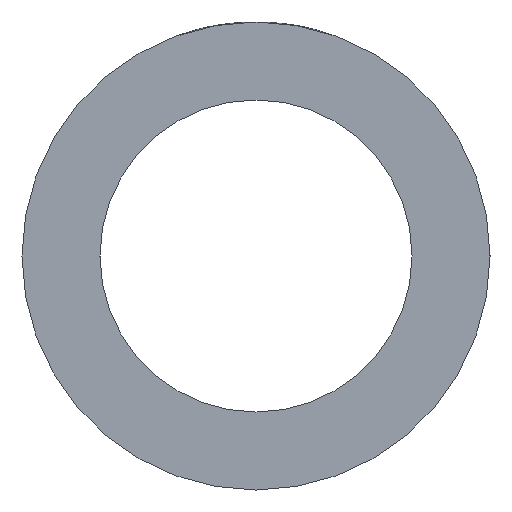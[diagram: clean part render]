
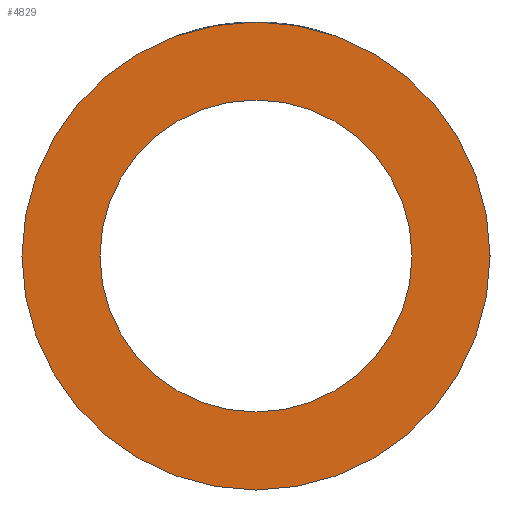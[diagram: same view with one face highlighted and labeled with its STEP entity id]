
A CAD part, left-side view. The second image highlights one B-rep face of the part: STEP entity #4829.
In plain terms, the highlighted planar face has unit normal (-1, 0, 0).
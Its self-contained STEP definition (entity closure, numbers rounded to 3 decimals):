
#114=PLANE('',#5206);
#330=CIRCLE('',#5205,60.);
#331=CIRCLE('',#5207,40.);
#1424=ORIENTED_EDGE('',*,*,#2872,.T.);
#1425=ORIENTED_EDGE('',*,*,#2871,.F.);
#2871=EDGE_CURVE('',#3595,#3595,#330,.T.);
#2872=EDGE_CURVE('',#3596,#3596,#331,.T.);
#3595=VERTEX_POINT('',#7776);
#3596=VERTEX_POINT('',#7779);
#4091=EDGE_LOOP('',(#1424));
#4092=EDGE_LOOP('',(#1425));
#4453=FACE_BOUND('',#4091,.T.);
#4454=FACE_BOUND('',#4092,.T.);
#4829=ADVANCED_FACE('',(#4453,#4454),#114,.F.);
#5205=AXIS2_PLACEMENT_3D('',#7775,#5695,#5696);
#5206=AXIS2_PLACEMENT_3D('',#7777,#5697,#5698);
#5207=AXIS2_PLACEMENT_3D('',#7778,#5699,#5700);
#5695=DIRECTION('',(1.,0.,0.));
#5696=DIRECTION('',(0.,0.,-1.));
#5697=DIRECTION('',(1.,0.,0.));
#5698=DIRECTION('',(0.,0.,-1.));
#5699=DIRECTION('',(1.,0.,0.));
#5700=DIRECTION('',(0.,0.,-1.));
#7775=CARTESIAN_POINT('',(-70.,0.,0.));
#7776=CARTESIAN_POINT('',(-70.,0.,-60.));
#7777=CARTESIAN_POINT('',(-70.,0.,0.));
#7778=CARTESIAN_POINT('',(-70.,0.,0.));
#7779=CARTESIAN_POINT('',(-70.,0.,-40.));
